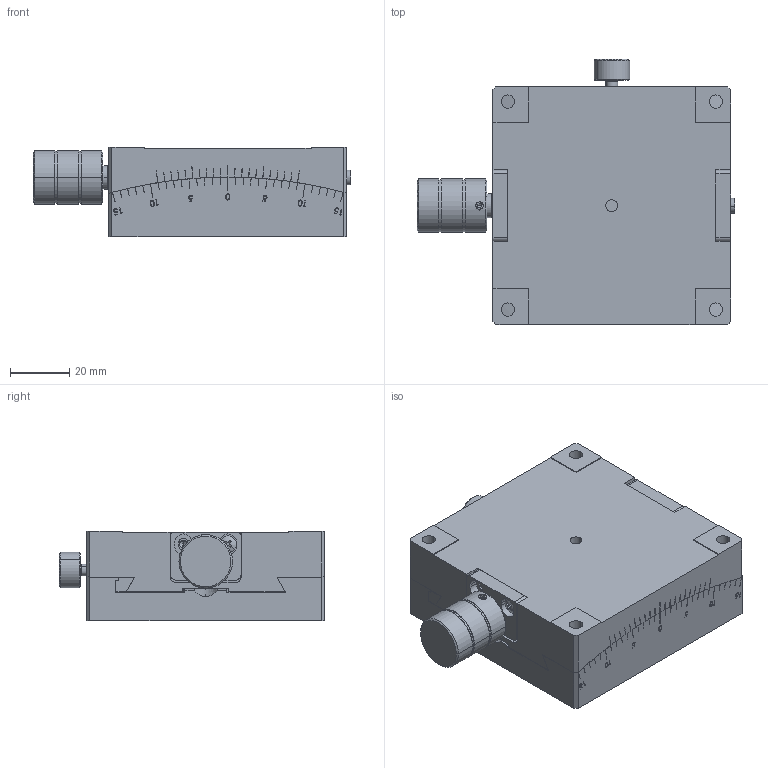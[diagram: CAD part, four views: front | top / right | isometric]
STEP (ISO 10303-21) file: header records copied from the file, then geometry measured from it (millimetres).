
FILE_DESCRIPTION (( 'STEP AP203' ), '1' );
FILE_NAME ('BFSG80-130.STEP', '2024-07-30T03:24:45', ( '微软用户' ), ( '微软中国' ), 'SwSTEP 2.0', 'SolidWorks 2024', '' );
FILE_SCHEMA (( 'CONFIG_CONTROL_DESIGN' ));
Products named in the file (1): BFSG80-130
Bounding box: 106.9 x 89.22 x 30 mm (x, y, z)
Volume: 186934.8 mm3; surface area: 54459.3 mm2
Topology: 15 solids, 15 shells, 999 faces, 3426 edges, 2302 vertices
Faces by surface type: plane 405, cylinder 255, torus 173, sphere 96, cone 65, bspline 5
Entity records: 52905 total; most frequent: CARTESIAN_POINT 25512, ORIENTED_EDGE 6236, DIRECTION 5313, EDGE_CURVE 3118, VERTEX_POINT 2122, AXIS2_PLACEMENT_3D 2063, VECTOR 1187, LINE 1187
